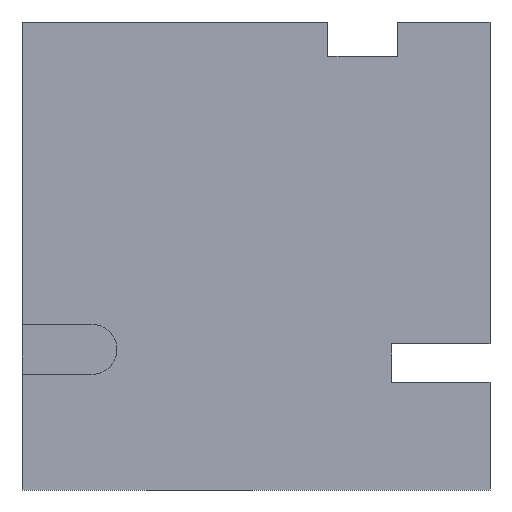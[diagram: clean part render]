
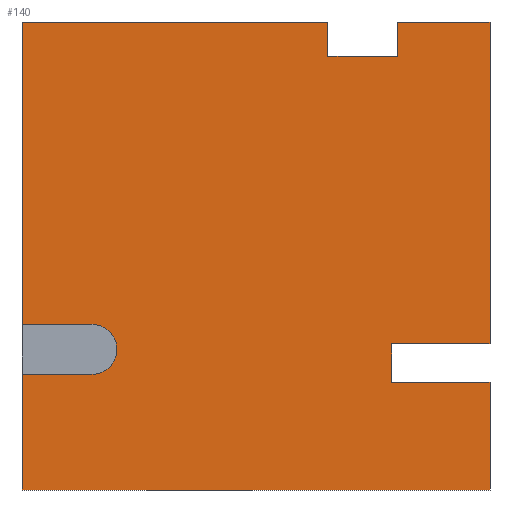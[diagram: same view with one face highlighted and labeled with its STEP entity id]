
A CAD part, left-side view. The second image highlights one B-rep face of the part: STEP entity #140.
In plain terms, the highlighted planar face has unit normal (-1, 0, 0).
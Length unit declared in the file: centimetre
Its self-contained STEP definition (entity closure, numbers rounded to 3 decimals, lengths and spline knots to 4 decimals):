
#22 = VERTEX_POINT ( 'NONE', #366 ) ;
#32 = VECTOR ( 'NONE', #689, 100. ) ;
#40 = CARTESIAN_POINT ( 'NONE',  ( 0., 346.3391, 927.1493 ) ) ;
#43 = CARTESIAN_POINT ( 'NONE',  ( 0., 0., 1000. ) ) ;
#44 = EDGE_CURVE ( 'NONE', #301, #539, #297, .T. ) ;
#82 = VERTEX_POINT ( 'NONE', #658 ) ;
#85 = VECTOR ( 'NONE', #439, 100. ) ;
#86 = CARTESIAN_POINT ( 'NONE',  ( 0., 1000., 1000. ) ) ;
#88 = CARTESIAN_POINT ( 'NONE',  ( 0., 197.5767, 927.1493 ) ) ;
#98 = CIRCLE ( 'NONE', #133, 53.3412 ) ;
#119 = LINE ( 'NONE', #340, #831 ) ;
#126 = CARTESIAN_POINT ( 'NONE',  ( 0., 850.436, 247.1735 ) ) ;
#127 = EDGE_CURVE ( 'NONE', #158, #149, #316, .T. ) ;
#133 = AXIS2_PLACEMENT_3D ( 'NONE', #523, #855, #401 ) ;
#134 = ORIENTED_EDGE ( 'NONE', *, *, #830, .F. ) ;
#140 = ADVANCED_FACE ( 'NONE', ( #246 ), #513, .F. ) ;
#148 = CARTESIAN_POINT ( 'NONE',  ( 0., 209.4207, 229.9354 ) ) ;
#149 = VERTEX_POINT ( 'NONE', #385 ) ;
#150 = DIRECTION ( 'NONE',  ( 0., 1., 0. ) ) ;
#156 = EDGE_CURVE ( 'NONE', #795, #22, #581, .T. ) ;
#158 = VERTEX_POINT ( 'NONE', #650 ) ;
#160 = DIRECTION ( 'NONE',  ( 0., 0., -1. ) ) ;
#168 = DIRECTION ( 'NONE',  ( 0., 0., 1. ) ) ;
#171 = VERTEX_POINT ( 'NONE', #417 ) ;
#174 = EDGE_CURVE ( 'NONE', #471, #451, #423, .T. ) ;
#176 = CARTESIAN_POINT ( 'NONE',  ( 0., 209.4207, 312.2452 ) ) ;
#178 = CARTESIAN_POINT ( 'NONE',  ( 0., 1000., 1000. ) ) ;
#181 = ORIENTED_EDGE ( 'NONE', *, *, #174, .T. ) ;
#182 = CARTESIAN_POINT ( 'NONE',  ( 0., 850.436, 247.1735 ) ) ;
#193 = CARTESIAN_POINT ( 'NONE',  ( 0., 0., 1000. ) ) ;
#214 = VECTOR ( 'NONE', #625, 100. ) ;
#225 = ORIENTED_EDGE ( 'NONE', *, *, #578, .F. ) ;
#227 = ORIENTED_EDGE ( 'NONE', *, *, #44, .F. ) ;
#230 = CARTESIAN_POINT ( 'NONE',  ( 0., 1000., 1000. ) ) ;
#237 = CARTESIAN_POINT ( 'NONE',  ( 0., 197.5767, 927.1493 ) ) ;
#246 = FACE_OUTER_BOUND ( 'NONE', #787, .T. ) ;
#259 = ORIENTED_EDGE ( 'NONE', *, *, #354, .F. ) ;
#269 = VECTOR ( 'NONE', #391, 100. ) ;
#272 = VERTEX_POINT ( 'NONE', #483 ) ;
#274 = ORIENTED_EDGE ( 'NONE', *, *, #842, .T. ) ;
#296 = CARTESIAN_POINT ( 'NONE',  ( 0., 1000., 247.1735 ) ) ;
#297 = LINE ( 'NONE', #237, #569 ) ;
#298 = CARTESIAN_POINT ( 'NONE',  ( 0., 209.4207, 229.9354 ) ) ;
#300 = LINE ( 'NONE', #40, #214 ) ;
#301 = VERTEX_POINT ( 'NONE', #667 ) ;
#307 = ORIENTED_EDGE ( 'NONE', *, *, #487, .T. ) ;
#316 = LINE ( 'NONE', #529, #670 ) ;
#321 = CARTESIAN_POINT ( 'NONE',  ( 0., 0., 312.2452 ) ) ;
#331 = CARTESIAN_POINT ( 'NONE',  ( 0., 1000., 1000. ) ) ;
#340 = CARTESIAN_POINT ( 'NONE',  ( 0., 1000., 1000. ) ) ;
#346 = VECTOR ( 'NONE', #150, 100. ) ;
#354 = EDGE_CURVE ( 'NONE', #801, #272, #119, .T. ) ;
#366 = CARTESIAN_POINT ( 'NONE',  ( 0., 0., 0. ) ) ;
#374 = LINE ( 'NONE', #86, #410 ) ;
#378 = VERTEX_POINT ( 'NONE', #126 ) ;
#385 = CARTESIAN_POINT ( 'NONE',  ( 0., 1000., 353.856 ) ) ;
#388 = LINE ( 'NONE', #43, #792 ) ;
#390 = LINE ( 'NONE', #193, #504 ) ;
#391 = DIRECTION ( 'NONE',  ( 0., -1., 0. ) ) ;
#394 = EDGE_CURVE ( 'NONE', #82, #171, #847, .T. ) ;
#401 = DIRECTION ( 'NONE',  ( 0., 0., -1. ) ) ;
#409 = LINE ( 'NONE', #88, #85 ) ;
#410 = VECTOR ( 'NONE', #645, 100. ) ;
#417 = CARTESIAN_POINT ( 'NONE',  ( 0., 346.3391, 1000. ) ) ;
#420 = EDGE_CURVE ( 'NONE', #539, #801, #409, .T. ) ;
#423 = LINE ( 'NONE', #799, #346 ) ;
#433 = LINE ( 'NONE', #321, #467 ) ;
#435 = LINE ( 'NONE', #148, #669 ) ;
#439 = DIRECTION ( 'NONE',  ( 0., 0., 1. ) ) ;
#448 = DIRECTION ( 'NONE',  ( 1., 0., 0. ) ) ;
#451 = VERTEX_POINT ( 'NONE', #298 ) ;
#464 = DIRECTION ( 'NONE',  ( 0., 0., -1. ) ) ;
#467 = VECTOR ( 'NONE', #856, 100. ) ;
#471 = VERTEX_POINT ( 'NONE', #752 ) ;
#483 = CARTESIAN_POINT ( 'NONE',  ( 0., 0., 1000. ) ) ;
#487 = EDGE_CURVE ( 'NONE', #451, #737, #435, .T. ) ;
#504 = VECTOR ( 'NONE', #464, 100. ) ;
#506 = DIRECTION ( 'NONE',  ( 0., -1., 0. ) ) ;
#513 = PLANE ( 'NONE',  #639 ) ;
#523 = CARTESIAN_POINT ( 'NONE',  ( 0., 850.436, 300.5148 ) ) ;
#526 = ORIENTED_EDGE ( 'NONE', *, *, #612, .F. ) ;
#529 = CARTESIAN_POINT ( 'NONE',  ( 0., 1000., 353.856 ) ) ;
#539 = VERTEX_POINT ( 'NONE', #766 ) ;
#552 = VECTOR ( 'NONE', #160, 100. ) ;
#560 = CARTESIAN_POINT ( 'NONE',  ( 0., 1000., 0. ) ) ;
#569 = VECTOR ( 'NONE', #506, 100. ) ;
#578 = EDGE_CURVE ( 'NONE', #378, #158, #98, .T. ) ;
#581 = LINE ( 'NONE', #781, #269 ) ;
#590 = DIRECTION ( 'NONE',  ( 0., 1., 0. ) ) ;
#592 = DIRECTION ( 'NONE',  ( 0., -1., 0. ) ) ;
#599 = ORIENTED_EDGE ( 'NONE', *, *, #734, .F. ) ;
#601 = DIRECTION ( 'NONE',  ( 0., -1., 0. ) ) ;
#612 = EDGE_CURVE ( 'NONE', #471, #22, #388, .T. ) ;
#623 = ORIENTED_EDGE ( 'NONE', *, *, #394, .F. ) ;
#625 = DIRECTION ( 'NONE',  ( 0., 0., -1. ) ) ;
#639 = AXIS2_PLACEMENT_3D ( 'NONE', #178, #448, #720 ) ;
#645 = DIRECTION ( 'NONE',  ( 0., 0., -1. ) ) ;
#648 = DIRECTION ( 'NONE',  ( 0., 0., -1. ) ) ;
#650 = CARTESIAN_POINT ( 'NONE',  ( 0., 850.436, 353.856 ) ) ;
#658 = CARTESIAN_POINT ( 'NONE',  ( 0., 1000., 1000. ) ) ;
#667 = CARTESIAN_POINT ( 'NONE',  ( 0., 346.3391, 927.1493 ) ) ;
#669 = VECTOR ( 'NONE', #168, 100. ) ;
#670 = VECTOR ( 'NONE', #590, 100. ) ;
#671 = ORIENTED_EDGE ( 'NONE', *, *, #420, .F. ) ;
#687 = ORIENTED_EDGE ( 'NONE', *, *, #702, .T. ) ;
#689 = DIRECTION ( 'NONE',  ( 0., -1., 0. ) ) ;
#695 = ORIENTED_EDGE ( 'NONE', *, *, #156, .T. ) ;
#697 = ORIENTED_EDGE ( 'NONE', *, *, #836, .T. ) ;
#702 = EDGE_CURVE ( 'NONE', #768, #795, #374, .T. ) ;
#703 = CARTESIAN_POINT ( 'NONE',  ( 0., 197.5767, 1000. ) ) ;
#714 = VERTEX_POINT ( 'NONE', #828 ) ;
#720 = DIRECTION ( 'NONE',  ( 0., 0., -1. ) ) ;
#734 = EDGE_CURVE ( 'NONE', #171, #301, #300, .T. ) ;
#737 = VERTEX_POINT ( 'NONE', #176 ) ;
#752 = CARTESIAN_POINT ( 'NONE',  ( 0., 0., 229.9354 ) ) ;
#766 = CARTESIAN_POINT ( 'NONE',  ( 0., 197.5767, 927.1493 ) ) ;
#768 = VERTEX_POINT ( 'NONE', #296 ) ;
#772 = ORIENTED_EDGE ( 'NONE', *, *, #127, .F. ) ;
#779 = LINE ( 'NONE', #182, #32 ) ;
#781 = CARTESIAN_POINT ( 'NONE',  ( 0., 1000., 0. ) ) ;
#785 = ORIENTED_EDGE ( 'NONE', *, *, #864, .F. ) ;
#787 = EDGE_LOOP ( 'NONE', ( #526, #181, #307, #274, #785, #259, #671, #227, #599, #623, #697, #772, #225, #134, #687, #695 ) ) ;
#792 = VECTOR ( 'NONE', #648, 100. ) ;
#795 = VERTEX_POINT ( 'NONE', #560 ) ;
#799 = CARTESIAN_POINT ( 'NONE',  ( 0., 0., 229.9354 ) ) ;
#801 = VERTEX_POINT ( 'NONE', #703 ) ;
#823 = LINE ( 'NONE', #230, #552 ) ;
#828 = CARTESIAN_POINT ( 'NONE',  ( 0., 0., 312.2452 ) ) ;
#830 = EDGE_CURVE ( 'NONE', #768, #378, #779, .T. ) ;
#831 = VECTOR ( 'NONE', #601, 100. ) ;
#836 = EDGE_CURVE ( 'NONE', #82, #149, #823, .T. ) ;
#842 = EDGE_CURVE ( 'NONE', #737, #714, #433, .T. ) ;
#847 = LINE ( 'NONE', #331, #865 ) ;
#855 = DIRECTION ( 'NONE',  ( -1., 0., 0. ) ) ;
#856 = DIRECTION ( 'NONE',  ( 0., -1., 0. ) ) ;
#864 = EDGE_CURVE ( 'NONE', #272, #714, #390, .T. ) ;
#865 = VECTOR ( 'NONE', #592, 100. ) ;
